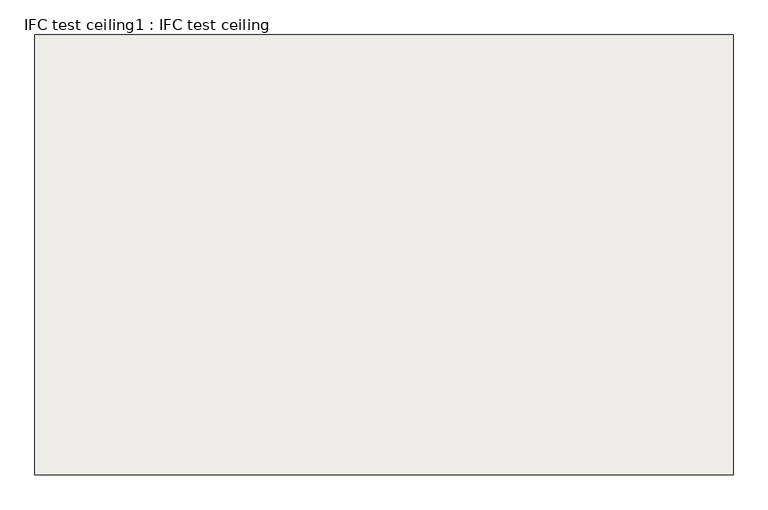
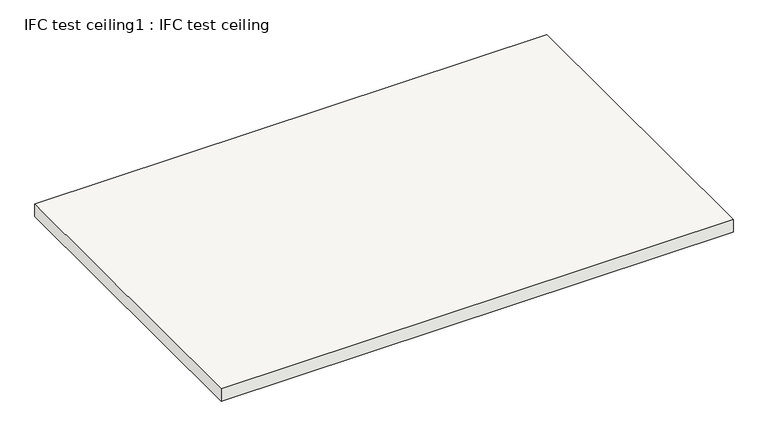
"""IFC4 building model written with IfcOpenShell, lengths in millimetres: covering geometry, IFC test ceiling1 : IFC test ceiling."""

from ifc_helpers import new_model, si_unit, origin, origin_with_axes, place, context, project, spatial, polyline, outline, extrude, source, transform, mapped, element, save


def ifc_test_ceiling1_ifc_test_ceiling_ea1ab778(model_context):
    return source(origin(), model_context, "Body", "SweptSolid", [
        extrude(outline(polyline([(-19986.0926943, -6586.8464789), (-29986.0926943, -6586.8464789), (-29986.0926943, -286.8464789), (-19986.0926943, -286.8464789), (-19986.0926943, -6586.8464789)])), origin_with_axes(), (0.0, 0.0, 1.0), 250.0),
    ])


if __name__ == "__main__":
    model = new_model("IFC4")
    model_context = context("Model", 3, world=origin())
    ifc_project = project(units=[si_unit("LENGTHUNIT", "METRE", prefix="MILLI")], contexts=[model_context])
    site = spatial("IfcSite", under=ifc_project)
    building = spatial("IfcBuilding", under=site)
    placement = place(None, origin())
    ifc_test_ceiling1_ifc_test_ceiling_shape = ifc_test_ceiling1_ifc_test_ceiling_ea1ab778(model_context)
    element("IfcCovering", 1, ObjectType="IFC test ceiling1 : IFC test ceiling", at=placement, inside=building, context=model_context, shape_type="MappedRepresentation", body=[
        mapped(ifc_test_ceiling1_ifc_test_ceiling_shape, transform((0.0, 0.0, 0.0), x_axis=(1.0, 0.0, 0.0), y_axis=(0.0, 1.0, 0.0), z_axis=(0.0, 0.0, 1.0))),
    ])
    save(model, "model.ifc")
